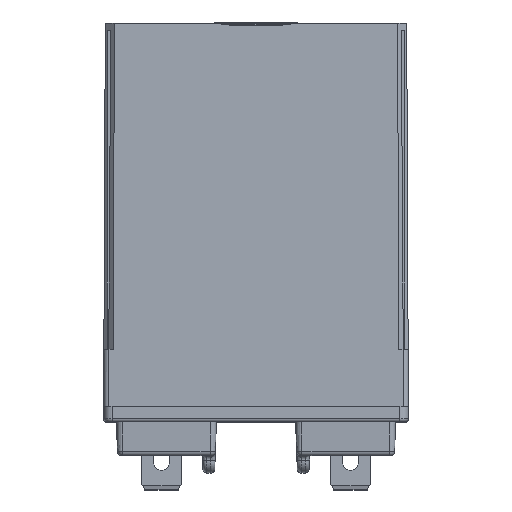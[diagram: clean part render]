
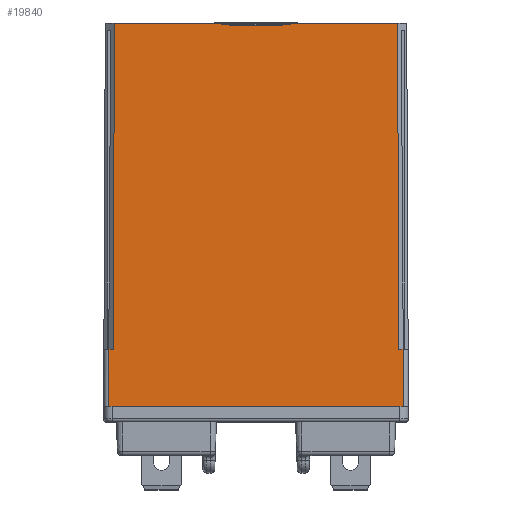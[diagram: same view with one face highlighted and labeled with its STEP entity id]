
A CAD part, top view. The second image highlights one B-rep face of the part: STEP entity #19840.
In plain terms, the highlighted planar face has unit normal (0, 0.004, 1).
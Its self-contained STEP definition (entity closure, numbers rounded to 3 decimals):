
#233 = EDGE_CURVE ( 'NONE', #5206, #30292, #14369, .T. ) ;
#308 = VERTEX_POINT ( 'NONE', #19526 ) ;
#512 = VECTOR ( 'NONE', #29621, 1000. ) ;
#663 = PLANE ( 'NONE',  #22209 ) ;
#908 = CARTESIAN_POINT ( 'NONE',  ( -17.9, 44.75, 17.705 ) ) ;
#1085 = EDGE_CURVE ( 'NONE', #2900, #19677, #28540, .T. ) ;
#1157 = VECTOR ( 'NONE', #27944, 1000. ) ;
#1179 = LINE ( 'NONE', #17728, #22401 ) ;
#1905 = LINE ( 'NONE', #16237, #34816 ) ;
#2129 = LINE ( 'NONE', #4703, #25237 ) ;
#2507 = VECTOR ( 'NONE', #3290, 1000. ) ;
#2806 = ORIENTED_EDGE ( 'NONE', *, *, #16543, .F. ) ;
#2900 = VERTEX_POINT ( 'NONE', #13014 ) ;
#2972 = ORIENTED_EDGE ( 'NONE', *, *, #233, .F. ) ;
#3080 = EDGE_CURVE ( 'NONE', #20108, #13013, #1179, .T. ) ;
#3239 = DIRECTION ( 'NONE',  ( 1., 0., 0. ) ) ;
#3290 = DIRECTION ( 'NONE',  ( -1., 0., 0. ) ) ;
#3413 = DIRECTION ( 'NONE',  ( 0., 0.004, 1. ) ) ;
#4374 = VERTEX_POINT ( 'NONE', #32117 ) ;
#4647 = DIRECTION ( 'NONE',  ( 1., 0., 0. ) ) ;
#4651 = DIRECTION ( 'NONE',  ( 1., 0., 0. ) ) ;
#4703 = CARTESIAN_POINT ( 'NONE',  ( -17.9, 6.7, 17.871 ) ) ;
#5118 = EDGE_CURVE ( 'NONE', #20108, #4374, #7350, .T. ) ;
#5206 = VERTEX_POINT ( 'NONE', #35646 ) ;
#5207 = LINE ( 'NONE', #15698, #13583 ) ;
#5413 = VECTOR ( 'NONE', #10118, 1000. ) ;
#5440 = CARTESIAN_POINT ( 'NONE',  ( -17.271, 6.7, 17.871 ) ) ;
#6565 = VECTOR ( 'NONE', #9411, 1000. ) ;
#6708 = CARTESIAN_POINT ( 'NONE',  ( -17.3, 0., 17.9 ) ) ;
#6819 = ORIENTED_EDGE ( 'NONE', *, *, #5118, .F. ) ;
#7350 = LINE ( 'NONE', #29418, #31801 ) ;
#7900 = ORIENTED_EDGE ( 'NONE', *, *, #15472, .T. ) ;
#8245 = DIRECTION ( 'NONE',  ( -0.992, -0.124, 0.001 ) ) ;
#8353 = CARTESIAN_POINT ( 'NONE',  ( 16.9, 0., 17.9 ) ) ;
#9402 = VECTOR ( 'NONE', #25235, 1000. ) ;
#9411 = DIRECTION ( 'NONE',  ( 1., 0., 0. ) ) ;
#9816 = VERTEX_POINT ( 'NONE', #27633 ) ;
#10118 = DIRECTION ( 'NONE',  ( -0.004, -1., 0.004 ) ) ;
#10948 = DIRECTION ( 'NONE',  ( 1., 0., 0. ) ) ;
#12179 = EDGE_CURVE ( 'NONE', #31020, #4374, #5207, .T. ) ;
#12544 = EDGE_CURVE ( 'NONE', #26287, #308, #34406, .T. ) ;
#12933 = LINE ( 'NONE', #19175, #28367 ) ;
#13013 = VERTEX_POINT ( 'NONE', #35617 ) ;
#13014 = CARTESIAN_POINT ( 'NONE',  ( -3., 44.75, 17.705 ) ) ;
#13094 = EDGE_CURVE ( 'NONE', #26287, #9816, #30839, .T. ) ;
#13583 = VECTOR ( 'NONE', #4651, 1000. ) ;
#14369 = LINE ( 'NONE', #22806, #1157 ) ;
#15472 = EDGE_CURVE ( 'NONE', #9816, #2900, #28467, .T. ) ;
#15698 = CARTESIAN_POINT ( 'NONE',  ( -17.9, 0., 17.9 ) ) ;
#16237 = CARTESIAN_POINT ( 'NONE',  ( 16.738, 0.063, 17.9 ) ) ;
#16511 = EDGE_CURVE ( 'NONE', #16696, #19677, #12933, .T. ) ;
#16543 = EDGE_CURVE ( 'NONE', #308, #5206, #1905, .T. ) ;
#16696 = VERTEX_POINT ( 'NONE', #18064 ) ;
#17231 = ORIENTED_EDGE ( 'NONE', *, *, #1085, .T. ) ;
#17583 = VERTEX_POINT ( 'NONE', #5440 ) ;
#17728 = CARTESIAN_POINT ( 'NONE',  ( -17.9, 0., 17.9 ) ) ;
#17990 = CARTESIAN_POINT ( 'NONE',  ( 5., 45., 17.704 ) ) ;
#18015 = EDGE_LOOP ( 'NONE', ( #7900, #17231, #20562, #21820, #27021, #23667, #25957, #6819, #21419, #29314, #2972, #2806, #18976, #30935 ) ) ;
#18064 = CARTESIAN_POINT ( 'NONE',  ( -16.657, 45., 17.704 ) ) ;
#18752 = CARTESIAN_POINT ( 'NONE',  ( -17.3, -0.003, 17.9 ) ) ;
#18976 = ORIENTED_EDGE ( 'NONE', *, *, #12544, .F. ) ;
#19175 = CARTESIAN_POINT ( 'NONE',  ( -17.9, 45., 17.704 ) ) ;
#19526 = CARTESIAN_POINT ( 'NONE',  ( 16.657, 45., 17.704 ) ) ;
#19616 = CARTESIAN_POINT ( 'NONE',  ( -5., 45., 17.704 ) ) ;
#19677 = VERTEX_POINT ( 'NONE', #19616 ) ;
#19840 = ADVANCED_FACE ( 'NONE', ( #22897 ), #663, .T. ) ;
#20010 = VECTOR ( 'NONE', #8245, 1000. ) ;
#20108 = VERTEX_POINT ( 'NONE', #8353 ) ;
#20169 = VERTEX_POINT ( 'NONE', #33519 ) ;
#20239 = EDGE_CURVE ( 'NONE', #13013, #30292, #23931, .T. ) ;
#20499 = EDGE_CURVE ( 'NONE', #20169, #16696, #33085, .T. ) ;
#20562 = ORIENTED_EDGE ( 'NONE', *, *, #16511, .F. ) ;
#21419 = ORIENTED_EDGE ( 'NONE', *, *, #3080, .T. ) ;
#21820 = ORIENTED_EDGE ( 'NONE', *, *, #20499, .F. ) ;
#22209 = AXIS2_PLACEMENT_3D ( 'NONE', #26177, #3413, #3239 ) ;
#22401 = VECTOR ( 'NONE', #29279, 1000. ) ;
#22806 = CARTESIAN_POINT ( 'NONE',  ( -17.9, 6.7, 17.871 ) ) ;
#22897 = FACE_OUTER_BOUND ( 'NONE', #18015, .T. ) ;
#23667 = ORIENTED_EDGE ( 'NONE', *, *, #32977, .T. ) ;
#23931 = LINE ( 'NONE', #26848, #512 ) ;
#24018 = EDGE_CURVE ( 'NONE', #17583, #20169, #2129, .T. ) ;
#24134 = DIRECTION ( 'NONE',  ( 0.002, -1., 0.004 ) ) ;
#24989 = CARTESIAN_POINT ( 'NONE',  ( -16.738, -0.002, 17.9 ) ) ;
#25235 = DIRECTION ( 'NONE',  ( -0.992, 0.124, -0.001 ) ) ;
#25237 = VECTOR ( 'NONE', #10948, 1000. ) ;
#25957 = ORIENTED_EDGE ( 'NONE', *, *, #12179, .T. ) ;
#26177 = CARTESIAN_POINT ( 'NONE',  ( -17.9, 0., 17.9 ) ) ;
#26287 = VERTEX_POINT ( 'NONE', #17990 ) ;
#26848 = CARTESIAN_POINT ( 'NONE',  ( 17.299, 0.154, 17.899 ) ) ;
#27021 = ORIENTED_EDGE ( 'NONE', *, *, #24018, .F. ) ;
#27633 = CARTESIAN_POINT ( 'NONE',  ( 3., 44.75, 17.705 ) ) ;
#27944 = DIRECTION ( 'NONE',  ( 1., 0., 0. ) ) ;
#28367 = VECTOR ( 'NONE', #4647, 1000. ) ;
#28467 = LINE ( 'NONE', #908, #2507 ) ;
#28540 = LINE ( 'NONE', #33869, #9402 ) ;
#28708 = CARTESIAN_POINT ( 'NONE',  ( -17.9, 45., 17.704 ) ) ;
#29279 = DIRECTION ( 'NONE',  ( 1., 0., 0. ) ) ;
#29314 = ORIENTED_EDGE ( 'NONE', *, *, #20239, .T. ) ;
#29418 = CARTESIAN_POINT ( 'NONE',  ( 16.9, 0., 17.9 ) ) ;
#29621 = DIRECTION ( 'NONE',  ( -0.004, 1., -0.004 ) ) ;
#29758 = LINE ( 'NONE', #18752, #5413 ) ;
#30292 = VERTEX_POINT ( 'NONE', #32285 ) ;
#30471 = CARTESIAN_POINT ( 'NONE',  ( -23.086, 41.489, 17.719 ) ) ;
#30839 = LINE ( 'NONE', #30471, #20010 ) ;
#30935 = ORIENTED_EDGE ( 'NONE', *, *, #13094, .T. ) ;
#31020 = VERTEX_POINT ( 'NONE', #6708 ) ;
#31042 = VECTOR ( 'NONE', #36193, 1000. ) ;
#31801 = VECTOR ( 'NONE', #31813, 1000. ) ;
#31813 = DIRECTION ( 'NONE',  ( -1., 0., 0. ) ) ;
#32117 = CARTESIAN_POINT ( 'NONE',  ( -16.9, 0., 17.9 ) ) ;
#32285 = CARTESIAN_POINT ( 'NONE',  ( 17.271, 6.7, 17.871 ) ) ;
#32977 = EDGE_CURVE ( 'NONE', #17583, #31020, #29758, .T. ) ;
#33085 = LINE ( 'NONE', #24989, #31042 ) ;
#33519 = CARTESIAN_POINT ( 'NONE',  ( -16.726, 6.7, 17.871 ) ) ;
#33869 = CARTESIAN_POINT ( 'NONE',  ( -12.163, 45.895, 17.7 ) ) ;
#34406 = LINE ( 'NONE', #28708, #6565 ) ;
#34816 = VECTOR ( 'NONE', #24134, 1000. ) ;
#35617 = CARTESIAN_POINT ( 'NONE',  ( 17.3, 0., 17.9 ) ) ;
#35646 = CARTESIAN_POINT ( 'NONE',  ( 16.726, 6.7, 17.871 ) ) ;
#36193 = DIRECTION ( 'NONE',  ( 0.002, 1., -0.004 ) ) ;
